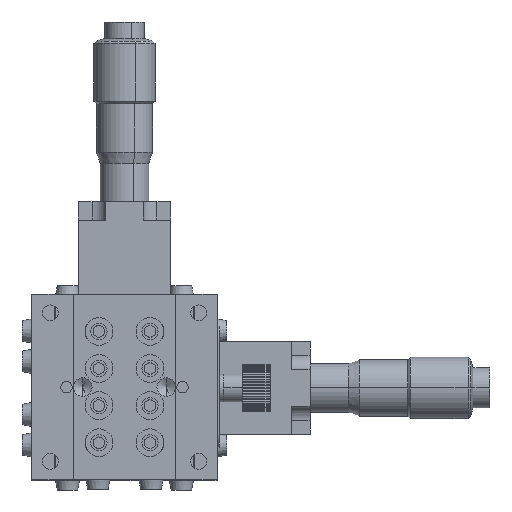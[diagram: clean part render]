
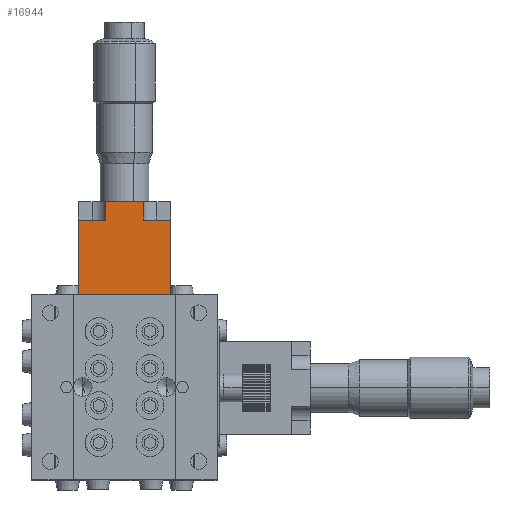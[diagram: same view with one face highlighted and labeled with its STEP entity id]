
A CAD part, front view. The second image highlights one B-rep face of the part: STEP entity #16944.
In plain terms, the highlighted planar face has unit normal (0, -1, 0).
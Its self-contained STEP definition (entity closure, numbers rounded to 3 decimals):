
#332 = ORIENTED_EDGE ( 'NONE', *, *, #16377, .F. ) ;
#572 = LINE ( 'NONE', #22646, #9353 ) ;
#578 = EDGE_CURVE ( 'NONE', #7631, #20711, #11486, .T. ) ;
#817 = ORIENTED_EDGE ( 'NONE', *, *, #18041, .F. ) ;
#925 = CARTESIAN_POINT ( 'NONE',  ( 10., 0., 0. ) ) ;
#1640 = VERTEX_POINT ( 'NONE', #13044 ) ;
#2219 = CARTESIAN_POINT ( 'NONE',  ( -10., 0., -16. ) ) ;
#2272 = ORIENTED_EDGE ( 'NONE', *, *, #18500, .T. ) ;
#2282 = DIRECTION ( 'NONE',  ( 0., 1., 0. ) ) ;
#3056 = CARTESIAN_POINT ( 'NONE',  ( -4., 0., -16. ) ) ;
#3524 = DIRECTION ( 'NONE',  ( -1., 0., 0. ) ) ;
#4003 = DIRECTION ( 'NONE',  ( -1., 0., 0. ) ) ;
#4512 = VECTOR ( 'NONE', #10017, 1000. ) ;
#4813 = VERTEX_POINT ( 'NONE', #17422 ) ;
#4830 = DIRECTION ( 'NONE',  ( 0., 0., -1. ) ) ;
#4958 = VECTOR ( 'NONE', #15056, 1000. ) ;
#5790 = LINE ( 'NONE', #21008, #9058 ) ;
#7631 = VERTEX_POINT ( 'NONE', #3056 ) ;
#7780 = ORIENTED_EDGE ( 'NONE', *, *, #9867, .T. ) ;
#8088 = LINE ( 'NONE', #12621, #20512 ) ;
#8302 = CARTESIAN_POINT ( 'NONE',  ( 10., 0., -16. ) ) ;
#8432 = CARTESIAN_POINT ( 'NONE',  ( -10., 0., 0. ) ) ;
#8929 = CARTESIAN_POINT ( 'NONE',  ( 10., 0., -20. ) ) ;
#9058 = VECTOR ( 'NONE', #4830, 1000. ) ;
#9276 = DIRECTION ( 'NONE',  ( 0., 0., -1. ) ) ;
#9353 = VECTOR ( 'NONE', #3524, 1000. ) ;
#9640 = AXIS2_PLACEMENT_3D ( 'NONE', #19923, #2282, #10997 ) ;
#9867 = EDGE_CURVE ( 'NONE', #7631, #4813, #8088, .T. ) ;
#10017 = DIRECTION ( 'NONE',  ( -1., 0., 0. ) ) ;
#10739 = ORIENTED_EDGE ( 'NONE', *, *, #17265, .T. ) ;
#10997 = DIRECTION ( 'NONE',  ( 0., 0., 1. ) ) ;
#11022 = DIRECTION ( 'NONE',  ( 0., 0., -1. ) ) ;
#11486 = LINE ( 'NONE', #2219, #22777 ) ;
#11808 = CARTESIAN_POINT ( 'NONE',  ( -10., 0., -16. ) ) ;
#12620 = VECTOR ( 'NONE', #11022, 1000. ) ;
#12621 = CARTESIAN_POINT ( 'NONE',  ( -4., 0., -16. ) ) ;
#12946 = CARTESIAN_POINT ( 'NONE',  ( 4., 0., -16. ) ) ;
#12982 = EDGE_CURVE ( 'NONE', #19707, #16761, #21605, .T. ) ;
#13009 = LINE ( 'NONE', #8929, #16010 ) ;
#13044 = CARTESIAN_POINT ( 'NONE',  ( 4., 0., -20. ) ) ;
#13692 = CARTESIAN_POINT ( 'NONE',  ( 4., 0., -16. ) ) ;
#14464 = VERTEX_POINT ( 'NONE', #925 ) ;
#15056 = DIRECTION ( 'NONE',  ( 0., 0., -1. ) ) ;
#15091 = EDGE_CURVE ( 'NONE', #14464, #19707, #22621, .T. ) ;
#15195 = CARTESIAN_POINT ( 'NONE',  ( 10., 0., -16. ) ) ;
#15666 = CARTESIAN_POINT ( 'NONE',  ( 10., 0., 0. ) ) ;
#16010 = VECTOR ( 'NONE', #21446, 1000. ) ;
#16377 = EDGE_CURVE ( 'NONE', #16761, #1640, #21185, .T. ) ;
#16761 = VERTEX_POINT ( 'NONE', #13692 ) ;
#16944 = ADVANCED_FACE ( 'NONE', ( #21163 ), #21637, .F. ) ;
#17265 = EDGE_CURVE ( 'NONE', #21389, #20711, #5790, .T. ) ;
#17422 = CARTESIAN_POINT ( 'NONE',  ( -4., 0., -20. ) ) ;
#18041 = EDGE_CURVE ( 'NONE', #1640, #4813, #13009, .T. ) ;
#18500 = EDGE_CURVE ( 'NONE', #14464, #21389, #572, .T. ) ;
#19707 = VERTEX_POINT ( 'NONE', #8302 ) ;
#19915 = ORIENTED_EDGE ( 'NONE', *, *, #578, .F. ) ;
#19923 = CARTESIAN_POINT ( 'NONE',  ( 10., 0., 0. ) ) ;
#20213 = ORIENTED_EDGE ( 'NONE', *, *, #15091, .F. ) ;
#20512 = VECTOR ( 'NONE', #9276, 1000. ) ;
#20711 = VERTEX_POINT ( 'NONE', #11808 ) ;
#21008 = CARTESIAN_POINT ( 'NONE',  ( -10., 0., 0. ) ) ;
#21163 = FACE_OUTER_BOUND ( 'NONE', #22270, .T. ) ;
#21185 = LINE ( 'NONE', #12946, #12620 ) ;
#21326 = ORIENTED_EDGE ( 'NONE', *, *, #12982, .F. ) ;
#21389 = VERTEX_POINT ( 'NONE', #8432 ) ;
#21446 = DIRECTION ( 'NONE',  ( -1., 0., 0. ) ) ;
#21605 = LINE ( 'NONE', #15195, #4512 ) ;
#21637 = PLANE ( 'NONE',  #9640 ) ;
#22270 = EDGE_LOOP ( 'NONE', ( #19915, #7780, #817, #332, #21326, #20213, #2272, #10739 ) ) ;
#22621 = LINE ( 'NONE', #15666, #4958 ) ;
#22646 = CARTESIAN_POINT ( 'NONE',  ( 10., 0., 0. ) ) ;
#22777 = VECTOR ( 'NONE', #4003, 1000. ) ;
